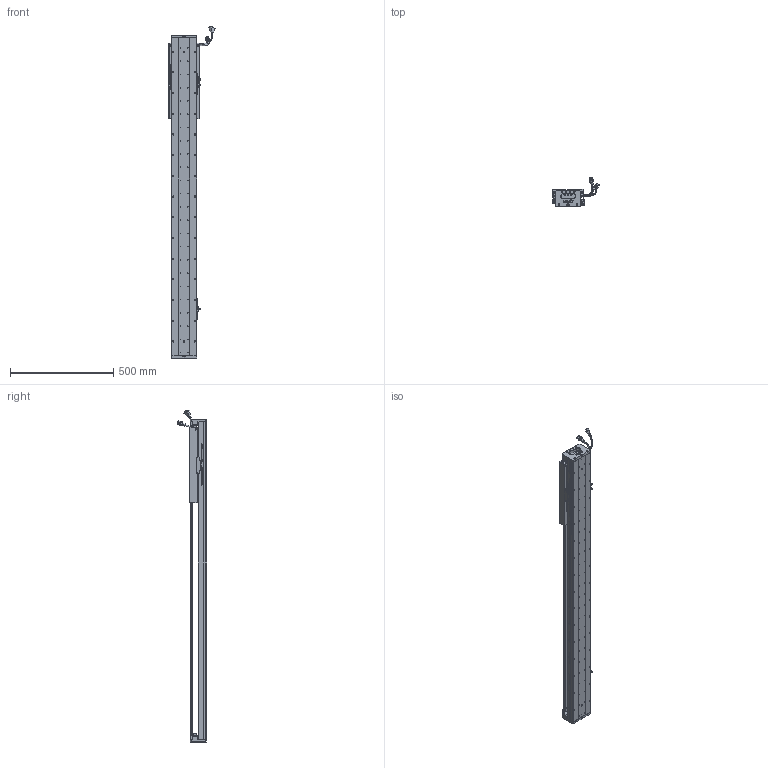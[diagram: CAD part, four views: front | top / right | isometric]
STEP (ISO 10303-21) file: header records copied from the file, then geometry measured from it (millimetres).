
FILE_DESCRIPTION (( 'STEP AP203' ), '1' );
FILE_NAME ('Z5-RY120D-1-L500-B-K.SLDASM_1100.step', '2021-05-17T06:22:23', ( '盈信电脑' ), ( '东莞市道滘镇水果街19号' ), 'SwSTEP 2.0', 'SolidWorks 2016', '' );
FILE_SCHEMA (( 'CONFIG_CONTROL_DESIGN' ));
Length unit declared in the file: millimetre
Products named in the file (37): Z5-RY120-500-倰第菁釱_1100; 080黍杅芛假蚾釱21遴; Z5-RY120铝滑块（21款）; SCREW-M1.6-1; SHIELDPLATE; PBU_SHEET; SCREW-M1.6-3; Z-RY120D詩湍狟揤裔; SCALE-Part-1; SEAL-Part-1; SCREW-M1.6; LABEL; Z5-RY120-L500詩湍100mm遵_1100; 140雄赽晤鎢ん堤盄; PSLH080_PSLF2; COVER; SCALE-Part-2; HARNESS; LABEL-Part-1; HARNESS-Part-1; SCALE; 覜茼ん672; 672嫖萇羲壽假蚾釱; HOLDER0; SCREW-M1.6-2; RY100FB-遵嫖萇覜茼え; HARNESS-Part-2; Z-120詩湍傷裔啣; SCREW-M1.7; 140蚥薯蝶輸; SEAL; 榋妏寠巭燃_暯_M2_2; 120-Z-臏賑輸盄裔(21遴); Z5-RY120D-1-L500-B-K.SLDASM_1100; COVER-Part-1; Z-RY120D詩湍奻揤裔; SCREW-M1.7-1
Assembly tree (43 placements, depth 4):
  Z5-RY120D-1-L500-B-K.SLDASM_1100
    Z5-RY120-500-倰第菁釱_1100
    覜茼ん672  x3
    672嫖萇羲壽假蚾釱  x2
    Z5-RY120铝滑块（21款）
    PSLH080_PSLF2
      SCALE
        SCALE-Part-1
        SCALE-Part-2
      HARNESS
        HARNESS-Part-1
        HARNESS-Part-2
      LABEL
        LABEL-Part-1
      COVER
        COVER-Part-1
      SEAL
        SEAL-Part-1
      榋妏寠巭燃_暯_M2_2
      SHIELDPLATE
      SCREW-M1.7
      SCREW-M1.7-1
      PBU_SHEET
      SCREW-M1.6
      SCREW-M1.6-1
      SCREW-M1.6-2
      SCREW-M1.6-3
      HOLDER0
    080黍杅芛假蚾釱21遴
    120-Z-臏賑輸盄裔(21遴)
    140雄赽晤鎢ん堤盄
    140蚥薯蝶輸  x2
    RY100FB-遵嫖萇覜茼え
    Z-120詩湍傷裔啣  x2
    Z-RY120D詩湍奻揤裔  x2
    Z-RY120D詩湍狟揤裔  x2
    Z5-RY120-L500詩湍100mm遵_1100
Bounding box: 222.86 x 140.94 x 1603.99 mm (x, y, z)
Volume: 4465663.6 mm3; surface area: 1462866.8 mm2
Topology: 38 solids, 38 shells, 3141 faces, 8629 edges, 5452 vertices
Faces by surface type: cylinder 1539, plane 1170, cone 310, torus 69, bspline 53
Entity records: 98434 total; most frequent: CARTESIAN_POINT 27575, ORIENTED_EDGE 14162, DIRECTION 13655, EDGE_CURVE 7081, AXIS2_PLACEMENT_3D 5042, VERTEX_POINT 4572, VECTOR 3571, LINE 3571
